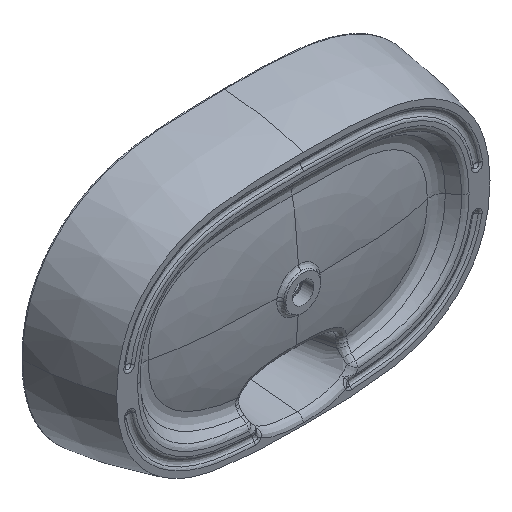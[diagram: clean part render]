
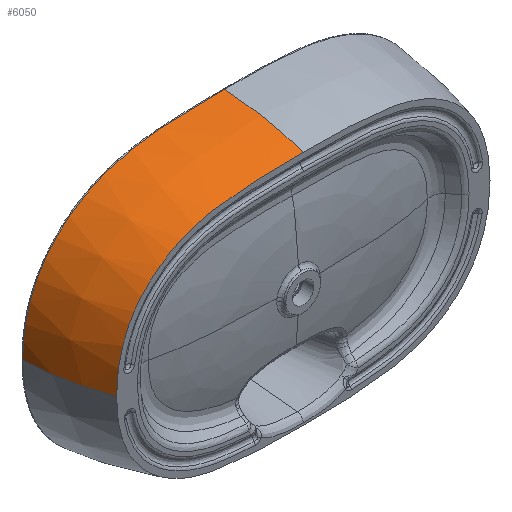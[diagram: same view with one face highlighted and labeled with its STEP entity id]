
A CAD part, isometric view. The second image highlights one B-rep face of the part: STEP entity #6050.
In plain terms, the highlighted free-form (B-spline) face has degree [3, 3] with [5, 14] control points.
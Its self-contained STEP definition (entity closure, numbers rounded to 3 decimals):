
#616=CARTESIAN_POINT('',(0.,0.,
177.));
#1032=CARTESIAN_POINT('',(-279.5,0.,
0.));
#1069=CARTESIAN_POINT('',(-302.429,117.572,
0.));
#1070=CARTESIAN_POINT('',(-301.79,97.937,
0.));
#1071=CARTESIAN_POINT('',(-297.337,57.961,
0.));
#1072=CARTESIAN_POINT('',(-286.566,19.196,
0.));
#1073=CARTESIAN_POINT('',(-279.5,0.,
0.));
#1075=CARTESIAN_POINT('',(0.,117.584,
199.852));
#1076=CARTESIAN_POINT('',(-18.142,117.584,199.855));
#1077=CARTESIAN_POINT('',(-51.918,117.575,199.622));
#1078=CARTESIAN_POINT('',(-98.218,117.56,197.512));
#1079=CARTESIAN_POINT('',(-139.428,117.517,192.461));
#1080=CARTESIAN_POINT('',(-175.385,117.499,182.92));
#1081=CARTESIAN_POINT('',(-204.82,117.485,170.263));
#1082=CARTESIAN_POINT('',(-230.253,117.492,154.269));
#1083=CARTESIAN_POINT('',(-252.07,117.496,135.383));
#1084=CARTESIAN_POINT('',(-270.066,117.504,113.879));
#1085=CARTESIAN_POINT('',(-283.553,117.529,91.162));
#1086=CARTESIAN_POINT('',(-294.074,117.541,64.78));
#1087=CARTESIAN_POINT('',(-300.768,117.562,35.21));
#1088=CARTESIAN_POINT('',(-302.428,117.572,12.191));
#1089=CARTESIAN_POINT('',(-302.429,117.572,
0.));
#1091=CARTESIAN_POINT('',(0.,117.584,
199.852));
#1092=CARTESIAN_POINT('',(0.,98.009,
198.602));
#1093=CARTESIAN_POINT('',(0.,58.213,193.538));
#1094=CARTESIAN_POINT('',(0.,19.385,
183.427));
#1095=CARTESIAN_POINT('',(0.,0.,
177.));
#1097=CARTESIAN_POINT('',(-279.5,0.,
0.));
#1098=CARTESIAN_POINT('',(-279.5,0.,
16.074));
#1099=CARTESIAN_POINT('',(-276.388,0.,
47.121));
#1100=CARTESIAN_POINT('',(-263.235,0.,
82.026));
#1101=CARTESIAN_POINT('',(-246.693,0.,
106.711));
#1102=CARTESIAN_POINT('',(-226.286,0.,
128.911));
#1103=CARTESIAN_POINT('',(-194.676,0.,
151.261));
#1104=CARTESIAN_POINT('',(-157.519,0.,
164.76));
#1105=CARTESIAN_POINT('',(-125.633,0.,
171.141));
#1106=CARTESIAN_POINT('',(-100.854,0.,
174.032));
#1107=CARTESIAN_POINT('',(-75.566,0.,
175.666));
#1108=CARTESIAN_POINT('',(-42.229,0.,
176.886));
#1109=CARTESIAN_POINT('',(-17.121,0.,
177.));
#1110=CARTESIAN_POINT('',(0.,0.,
177.));
#3442=VERTEX_POINT('',#616);
#3443=VERTEX_POINT('',#1032);
#3449=VERTEX_POINT('',#1069);
#3450=VERTEX_POINT('',#1091);
#5973=CARTESIAN_POINT('',(-302.435,118.774,
-4.136));
#5974=CARTESIAN_POINT('',(-302.717,118.774,14.822));
#5975=CARTESIAN_POINT('',(-299.578,118.773,50.83));
#5976=CARTESIAN_POINT('',(-283.931,118.773,92.362));
#5977=CARTESIAN_POINT('',(-264.835,118.773,120.892));
#5978=CARTESIAN_POINT('',(-241.359,118.773,146.409));
#5979=CARTESIAN_POINT('',(-205.303,118.774,171.87));
#5980=CARTESIAN_POINT('',(-163.825,118.774,186.871));
#5981=CARTESIAN_POINT('',(-129.159,118.774,193.804));
#5982=CARTESIAN_POINT('',(-102.856,118.775,196.868));
#5983=CARTESIAN_POINT('',(-76.715,118.775,198.558));
#5984=CARTESIAN_POINT('',(-41.294,118.776,199.863));
#5985=CARTESIAN_POINT('',(-14.691,118.777,199.935));
#5986=CARTESIAN_POINT('',(3.823,118.777,199.926));
#5987=CARTESIAN_POINT('',(-301.847,98.737,
-4.104));
#5988=CARTESIAN_POINT('',(-302.131,98.735,14.714));
#5989=CARTESIAN_POINT('',(-298.962,98.731,50.373));
#5990=CARTESIAN_POINT('',(-283.432,98.729,91.344));
#5991=CARTESIAN_POINT('',(-264.52,98.729,119.523));
#5992=CARTESIAN_POINT('',(-241.277,98.73,144.777));
#5993=CARTESIAN_POINT('',(-205.559,98.733,170.073));
#5994=CARTESIAN_POINT('',(-164.356,98.74,185.143));
#5995=CARTESIAN_POINT('',(-129.792,98.748,192.203));
#5996=CARTESIAN_POINT('',(-103.475,98.755,195.381));
#5997=CARTESIAN_POINT('',(-77.215,98.764,197.179));
#5998=CARTESIAN_POINT('',(-41.591,98.779,198.601));
#5999=CARTESIAN_POINT('',(-14.794,98.792,198.714));
#6000=CARTESIAN_POINT('',(3.85,98.803,198.701));
#6001=CARTESIAN_POINT('',(-297.371,57.956,
-4.016));
#6002=CARTESIAN_POINT('',(-297.648,57.91,14.404));
#6003=CARTESIAN_POINT('',(-294.475,57.838,49.1));
#6004=CARTESIAN_POINT('',(-279.413,57.789,88.564));
#6005=CARTESIAN_POINT('',(-261.118,57.771,115.732));
#6006=CARTESIAN_POINT('',(-238.632,57.767,140.155));
#6007=CARTESIAN_POINT('',(-204.01,57.786,164.754));
#6008=CARTESIAN_POINT('',(-163.822,57.834,179.635));
#6009=CARTESIAN_POINT('',(-129.835,57.889,186.73));
#6010=CARTESIAN_POINT('',(-103.762,57.937,189.994));
#6011=CARTESIAN_POINT('',(-77.528,57.992,191.896));
#6012=CARTESIAN_POINT('',(-41.842,58.079,193.434));
#6013=CARTESIAN_POINT('',(-14.892,58.155,193.598));
#6014=CARTESIAN_POINT('',(3.875,58.211,193.588));
#6015=CARTESIAN_POINT('',(-286.322,18.425,
-3.875));
#6016=CARTESIAN_POINT('',(-286.577,18.384,13.911));
#6017=CARTESIAN_POINT('',(-283.527,18.322,47.129));
#6018=CARTESIAN_POINT('',(-269.391,18.28,84.361));
#6019=CARTESIAN_POINT('',(-252.2,18.265,109.938));
#6020=CARTESIAN_POINT('',(-231.03,18.262,132.945));
#6021=CARTESIAN_POINT('',(-198.319,18.278,156.132));
#6022=CARTESIAN_POINT('',(-160.047,18.317,170.179));
#6023=CARTESIAN_POINT('',(-127.371,18.361,176.863));
#6024=CARTESIAN_POINT('',(-102.092,18.4,179.924));
#6025=CARTESIAN_POINT('',(-76.418,18.444,181.688));
#6026=CARTESIAN_POINT('',(-41.38,18.512,183.093));
#6027=CARTESIAN_POINT('',(-14.76,18.57,183.224));
#6028=CARTESIAN_POINT('',(3.84,18.612,183.224));
#6029=CARTESIAN_POINT('',(-279.051,-1.135,
-3.791));
#6030=CARTESIAN_POINT('',(-279.313,-1.133,
13.615));
#6031=CARTESIAN_POINT('',(-276.389,-1.129,
45.957));
#6032=CARTESIAN_POINT('',(-262.857,-1.127,
81.882));
#6033=CARTESIAN_POINT('',(-246.355,-1.126,
106.513));
#6034=CARTESIAN_POINT('',(-225.996,-1.126,
128.664));
#6035=CARTESIAN_POINT('',(-194.452,-1.126,
150.962));
#6036=CARTESIAN_POINT('',(-157.365,-1.129,
164.427));
#6037=CARTESIAN_POINT('',(-125.527,-1.132,
170.79));
#6038=CARTESIAN_POINT('',(-100.778,-1.134,
173.67));
#6039=CARTESIAN_POINT('',(-75.514,-1.137,
175.297));
#6040=CARTESIAN_POINT('',(-40.971,-1.141,
176.554));
#6041=CARTESIAN_POINT('',(-14.636,-1.144,
176.628));
#6042=CARTESIAN_POINT('',(3.807,-1.147,176.617));
#6043=B_SPLINE_SURFACE_WITH_KNOTS('',3,3,((#5973,#5974,#5975,#5976,#5977,#5978,
#5979,#5980,#5981,#5982,#5983,#5984,#5985,#5986),(#5987,#5988,#5989,#5990,#5991,
#5992,#5993,#5994,#5995,#5996,#5997,#5998,#5999,#6000),(#6001,#6002,#6003,#6004,
#6005,#6006,#6007,#6008,#6009,#6010,#6011,#6012,#6013,#6014),(#6015,#6016,#6017,
#6018,#6019,#6020,#6021,#6022,#6023,#6024,#6025,#6026,#6027,#6028),(#6029,#6030,
#6031,#6032,#6033,#6034,#6035,#6036,#6037,#6038,#6039,#6040,#6041,#6042)),
.UNSPECIFIED.,.F.,.F.,.F.,(4,1,4),(4,1,1,1,1,1,1,1,1,1,1,4),(0.01,
0.5,1.01),(-0.01,0.125,0.25,0.313,0.375,
0.5,0.625,0.688,0.75,0.813,0.875,1.009),.UNSPECIFIED.);
#6044=ORIENTED_EDGE('',*,*,#5965,.F.);
#6045=ORIENTED_EDGE('',*,*,#5228,.F.);
#6046=ORIENTED_EDGE('',*,*,#4217,.T.);
#6047=ORIENTED_EDGE('',*,*,#4093,.F.);
#6048=EDGE_LOOP('',(#6044,#6045,#6046,#6047));
#6049=FACE_OUTER_BOUND('',#6048,.F.);
#1074=B_SPLINE_CURVE_WITH_KNOTS('',3,(#1069,#1070,#1071,#1072,#1073),
.UNSPECIFIED.,.F.,.F.,(4,1,4),(0.,0.49,1.),.UNSPECIFIED.);
#1090=B_SPLINE_CURVE_WITH_KNOTS('',3,(#1075,#1076,#1077,#1078,#1079,#1080,#1081,
#1082,#1083,#1084,#1085,#1086,#1087,#1088,#1089),.UNSPECIFIED.,.F.,.F.,(4,1,1,1,
1,1,1,1,1,1,1,1,4),(0.,0.083,0.167,0.25,
0.333,0.417,0.5,0.583,0.667,
0.75,0.833,0.917,1.),.UNSPECIFIED.);
#1096=B_SPLINE_CURVE_WITH_KNOTS('',3,(#1091,#1092,#1093,#1094,#1095),
.UNSPECIFIED.,.F.,.F.,(4,1,4),(0.,0.49,1.),.UNSPECIFIED.);
#1111=B_SPLINE_CURVE_WITH_KNOTS('',3,(#1097,#1098,#1099,#1100,#1101,#1102,#1103,
#1104,#1105,#1106,#1107,#1108,#1109,#1110),.UNSPECIFIED.,.F.,.F.,(4,1,1,1,1,1,1,
1,1,1,1,4),(0.,0.125,0.25,0.313,0.375,0.5,0.625,0.688,0.75,
0.813,0.875,1.),.UNSPECIFIED.);
#4093=EDGE_CURVE('',#3443,#3442,#1111,.T.);
#4217=EDGE_CURVE('',#3450,#3442,#1096,.T.);
#5228=EDGE_CURVE('',#3450,#3449,#1090,.T.);
#5965=EDGE_CURVE('',#3449,#3443,#1074,.T.);
#6050=ADVANCED_FACE('',(#6049),#6043,.T.);
